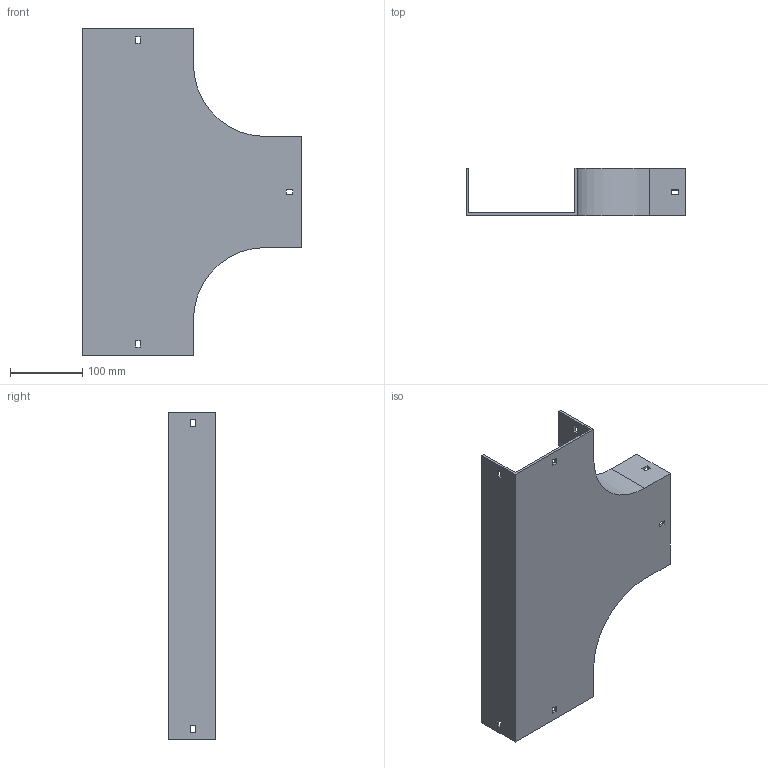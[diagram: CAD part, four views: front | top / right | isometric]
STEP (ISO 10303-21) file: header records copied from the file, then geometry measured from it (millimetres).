
FILE_DESCRIPTION (( 'STEP AP214' ), '1' );
FILE_NAME ('15B1H150.step', '2025-02-21T09:54:43', ( '' ), ( '' ), 'SwSTEP 2.0', 'SolidWorks 2023', '' );
FILE_SCHEMA (( 'AUTOMOTIVE_DESIGN' ));
Length unit declared in the file: millimetre
Products named in the file (1): 15B1H150
Bounding box: 304 x 65.5 x 454 mm (x, y, z)
Volume: 549777.5 mm3; surface area: 321505.6 mm2
Topology: 1 solids, 1 shells, 58 faces, 168 edges, 112 vertices
Faces by surface type: plane 54, cylinder 4
Entity records: 1939 total; most frequent: CARTESIAN_POINT 339, ORIENTED_EDGE 336, DIRECTION 294, EDGE_CURVE 168, VECTOR 160, LINE 160, VERTEX_POINT 112, EDGE_LOOP 76
